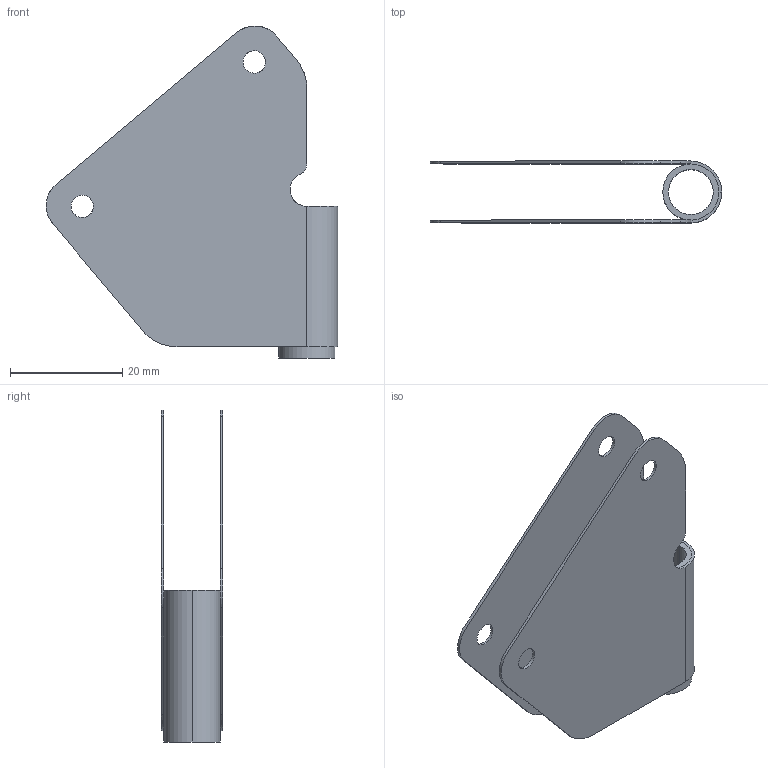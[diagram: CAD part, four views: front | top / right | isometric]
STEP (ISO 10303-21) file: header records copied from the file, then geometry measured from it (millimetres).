
FILE_DESCRIPTION(('CATIA V5 STEP Exchange'),'2;1');
FILE_NAME('E:\Etudes_avions\Sites_web\Apprendre_la_CAO\Sujets\Lampe bureau\Platine basse.stp','2017-08-03T16:23:52+00:00',('none'),('none'),'CATIA Version 5 Release 21 GA (IN-10)','CATIA V5 STEP AP203','none');
FILE_SCHEMA(('CONFIG_CONTROL_DESIGN'));
Length unit declared in the file: millimetre
Products named in the file (1): Platine basse
Bounding box: 51.91 x 11 x 59.12 mm (x, y, z)
Volume: 2795.1 mm3; surface area: 9899.2 mm2
Topology: 2 solids, 2 shells, 48 faces, 120 edges, 76 vertices
Faces by surface type: cylinder 28, plane 20
Entity records: 1514 total; most frequent: CARTESIAN_POINT 353, ORIENTED_EDGE 240, DIRECTION 195, EDGE_CURVE 120, AXIS2_PLACEMENT_3D 88, VERTEX_POINT 76, VECTOR 61, LINE 61
